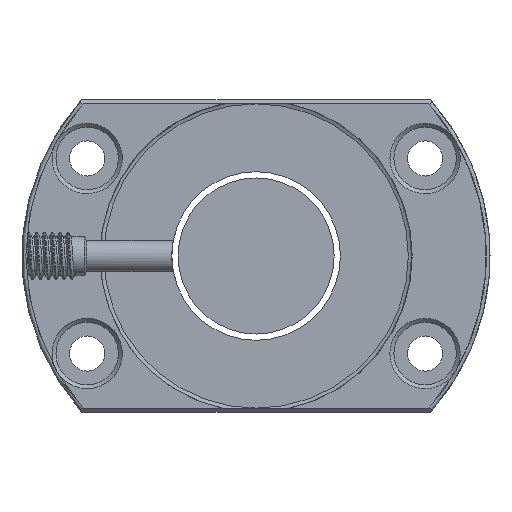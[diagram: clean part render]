
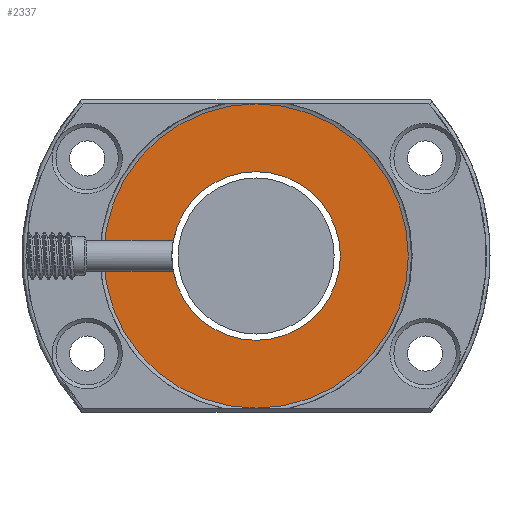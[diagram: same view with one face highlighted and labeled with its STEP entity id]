
A CAD part, left-side view. The second image highlights one B-rep face of the part: STEP entity #2337.
In plain terms, the highlighted planar face has unit normal (1, 0, 0).
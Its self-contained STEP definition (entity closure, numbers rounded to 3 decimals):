
#169 = FACE_OUTER_BOUND ( 'NONE', #291, .T. ) ;
#196 = CARTESIAN_POINT ( 'NONE',  ( 0., 0., -10.8 ) ) ;
#291 = EDGE_LOOP ( 'NONE', ( #2841 ) ) ;
#409 = DIRECTION ( 'NONE',  ( 0., 0., -1. ) ) ;
#425 = VERTEX_POINT ( 'NONE', #196 ) ;
#627 = DIRECTION ( 'NONE',  ( 1., 0., 0. ) ) ;
#706 = DIRECTION ( 'NONE',  ( 1., 0., 0. ) ) ;
#1059 = CIRCLE ( 'NONE', #1571, 19.5 ) ;
#1104 = AXIS2_PLACEMENT_3D ( 'NONE', #3156, #706, #2940 ) ;
#1105 = EDGE_CURVE ( 'NONE', #425, #425, #2677, .T. ) ;
#1571 = AXIS2_PLACEMENT_3D ( 'NONE', #3057, #2866, #409 ) ;
#1613 = CARTESIAN_POINT ( 'NONE',  ( 0., 10.8, 0. ) ) ;
#1902 = DIRECTION ( 'NONE',  ( 0., 0., -1. ) ) ;
#2209 = CARTESIAN_POINT ( 'NONE',  ( 0., 0., -19.5 ) ) ;
#2337 = ADVANCED_FACE ( 'NONE', ( #169, #2340 ), #2869, .T. ) ;
#2340 = FACE_BOUND ( 'NONE', #3028, .T. ) ;
#2677 = CIRCLE ( 'NONE', #1104, 10.8 ) ;
#2692 = VERTEX_POINT ( 'NONE', #2209 ) ;
#2693 = EDGE_CURVE ( 'NONE', #2692, #2692, #1059, .T. ) ;
#2841 = ORIENTED_EDGE ( 'NONE', *, *, #2693, .T. ) ;
#2866 = DIRECTION ( 'NONE',  ( 1., 0., 0. ) ) ;
#2869 = PLANE ( 'NONE',  #2943 ) ;
#2940 = DIRECTION ( 'NONE',  ( 0., 0., -1. ) ) ;
#2943 = AXIS2_PLACEMENT_3D ( 'NONE', #1613, #627, #1902 ) ;
#3028 = EDGE_LOOP ( 'NONE', ( #3077 ) ) ;
#3057 = CARTESIAN_POINT ( 'NONE',  ( 0., 0., 0. ) ) ;
#3077 = ORIENTED_EDGE ( 'NONE', *, *, #1105, .F. ) ;
#3156 = CARTESIAN_POINT ( 'NONE',  ( 0., 0., 0. ) ) ;
